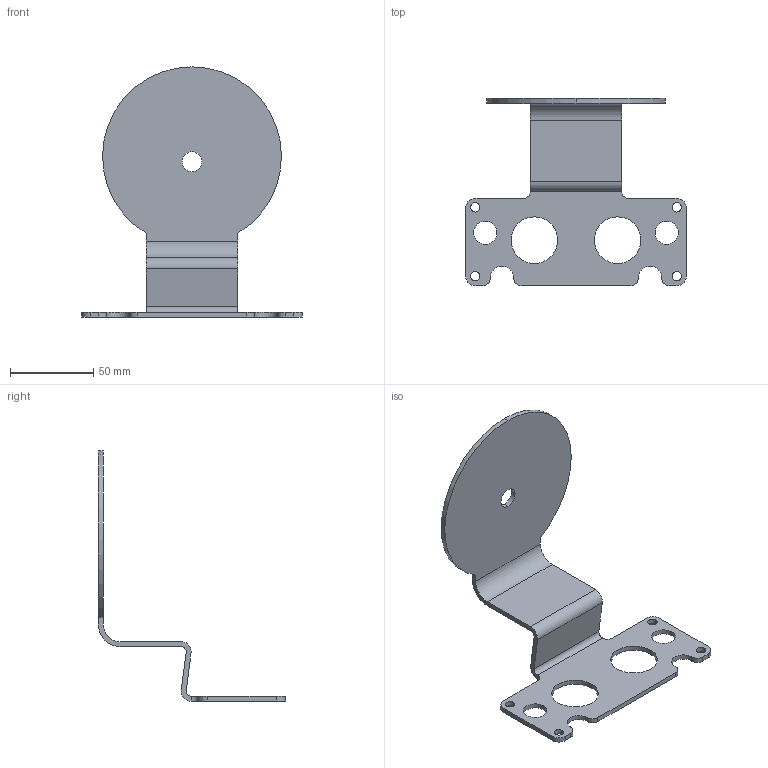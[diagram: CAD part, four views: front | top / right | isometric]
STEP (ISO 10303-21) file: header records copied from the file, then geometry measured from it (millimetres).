
FILE_DESCRIPTION (( 'STEP AP203' ), '1' );
FILE_NAME ('OS32C_BKT4.step', '2011-08-01T05:02:25', ( 'OSMC1.0 YAMANOUCHI' ), ( 'TAKUMI-Engniaring' ), 'SwSTEP 2.0', 'SolidWorks 2002025', '' );
FILE_SCHEMA (( 'CONFIG_CONTROL_DESIGN' ));
Length unit declared in the file: millimetre
Products named in the file (1): OS32C_BKT4
Bounding box: 132.4 x 112.4 x 150.4 mm (x, y, z)
Volume: 57792.5 mm3; surface area: 42082.3 mm2
Topology: 1 solids, 1 shells, 59 faces, 171 edges, 114 vertices
Faces by surface type: cylinder 38, plane 21
Entity records: 2094 total; most frequent: DIRECTION 367, CARTESIAN_POINT 345, ORIENTED_EDGE 342, EDGE_CURVE 171, AXIS2_PLACEMENT_3D 136, VERTEX_POINT 114, LINE 95, VECTOR 95
